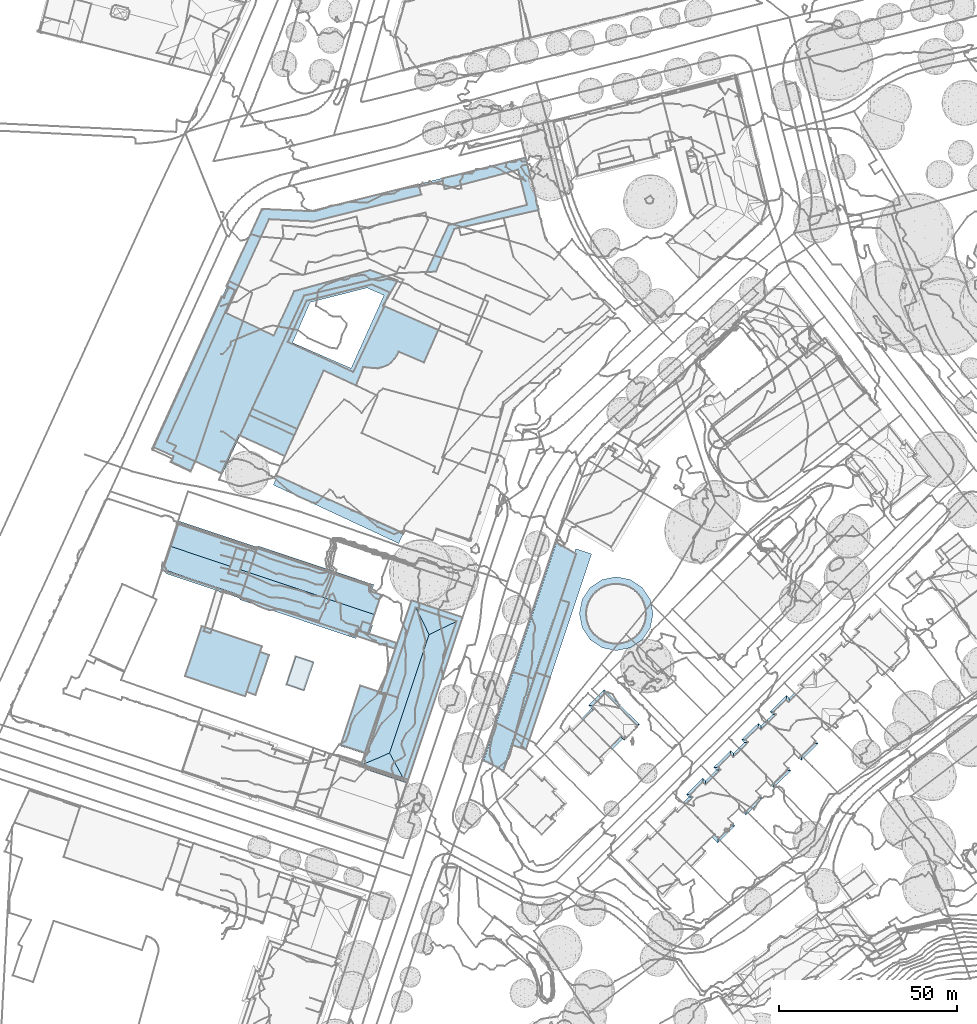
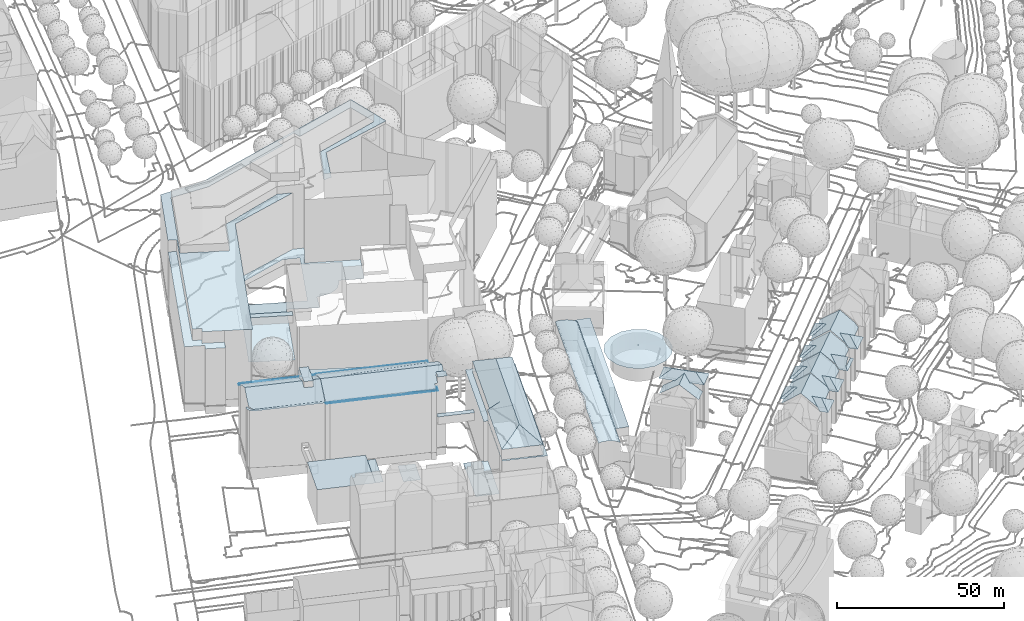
# Not in any storey, part 61 of 494: 27 roofs.
"""IFC2X3 model written with IfcOpenShell, lengths in metres."""

from ifc_helpers import new_model, si_unit, frame, origin_with_axes, place, context, subcontext, project, faceted_brep, element, save


model = new_model("IFC2X3")

# Units and contexts
model_context = context("Model", 3, precision=1e-05, world=origin_with_axes())
body_context = subcontext(model_context, "Body", "Model", "MODEL_VIEW")
ifc_project = project(units=[si_unit("AREAUNIT", "SQUARE_METRE"), si_unit("LENGTHUNIT", "METRE")], contexts=[model_context])

# Roofs
roof_1_placement = place(None, frame((152.792732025, 144.4969160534, 530.4589), z_axis=(0.0, 0.0, 1.0), x_axis=(1.0, 0.0, 0.0)))
element("IfcRoof", 1, at=roof_1_placement, Name="Roof 0", ShapeType="NOTDEFINED", context=body_context, shape_type="Brep", body=[
    faceted_brep([(11.4990000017, 3.9199000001, 16.6064), (3.7160000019, -3.7655999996, 16.6064), (7.0240000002, -3.9297000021, 14.4656), (14.8100000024, 0.5673999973, 12.7558), (15.0250000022, -1.134800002, 11.9018), (11.9930000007, -4.1270000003, 11.9018), (13.8900000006, -6.0479000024, 11.9018), (13.2320000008, -5.3819000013, 11.9018), (12.7750000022, -6.0459000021, 12.4998), (9.1090000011, -6.0410000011, 14.4656), (9.1130000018, -10.7666000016, 11.9018), (7.2149999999, -8.8447999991, 11.9018), (7.0860000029, -8.1914000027, 12.2278), (8.4680000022, -10.1132999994, 11.9018), (7.0250000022, -7.1172000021, 12.7557), (0.0, 0.0, 12.4958), (5.7910000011, 2.1543000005, 14.4656), (-0.5369999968, 0.5438999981, 11.9018), (1.0560000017, 2.115199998, 11.9018), (1.9360000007, 2.1219999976, 12.3788), (0.3060000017, 2.875, 11.9018), (1.4580000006, 2.8759999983, 12.5208), (5.0760000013, 2.878899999, 14.4656), (5.7410000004, 5.7020999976, 12.4768), (6.9220000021, 6.8759999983, 12.5478), (7.2460000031, 8.2284999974, 11.9978), (5.7259999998, 6.7265000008, 11.9018), (9.4890000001, 5.9560000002, 14.4286), (7.7600000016, 7.7080000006, 12.5548), (5.006000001, 6.1171999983, 12.6628), (4.9759999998, 7.4844000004, 11.9019)], [[[0, 1, 2]], [[0, 2, 3]], [[4, 2, 5]], [[3, 2, 4]], [[6, 7, 8]], [[8, 7, 5]], [[5, 2, 9]], [[5, 9, 8]], [[10, 8, 9]], [[8, 10, 6]], [[11, 2, 12]], [[9, 2, 13]], [[13, 2, 11]], [[13, 10, 9]], [[12, 2, 14]], [[1, 14, 2]], [[15, 1, 16]], [[17, 15, 18]], [[0, 16, 1]], [[19, 18, 15]], [[16, 19, 15]], [[20, 18, 21]], [[21, 18, 19]], [[19, 16, 22]], [[19, 22, 21]], [[23, 16, 24]], [[23, 25, 26]], [[25, 23, 24]], [[0, 27, 16]], [[16, 27, 24]], [[28, 25, 24]], [[28, 24, 27]], [[26, 29, 23]], [[16, 23, 22]], [[29, 22, 23]], [[30, 29, 26]], [[29, 30, 21]], [[21, 22, 29]], [[20, 21, 30]]]),
])
roof_2_placement = place(None, frame((-19.7342679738, 221.4617160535, 529.9572), z_axis=(0.0, 0.0, 1.0), x_axis=(1.0, 0.0, 0.0)))
element("IfcRoof", 2, at=roof_2_placement, Name="Roof 0", ShapeType="NOTDEFINED", context=body_context, shape_type="Brep", body=[
    faceted_brep([(4.993999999, -4.1132999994, 23.7467), (10.4820000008, -6.5976000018, 23.7467), (5.6550000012, -2.4844000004, 23.7467), (3.7309999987, 1.5986000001, 23.7467), (5.5020000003, -1.072300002, 23.7467), (11.6130000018, -3.942400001, 23.7467), (6.3049999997, 0.4395000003, 23.7467), (22.8310000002, 44.0722999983, 23.7468), (20.5639999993, 45.2509999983, 23.7468), (0.0, 0.0, 23.7467)], [[[0, 1, 2]], [[3, 2, 4]], [[1, 5, 2]], [[3, 4, 6]], [[4, 2, 5]], [[3, 7, 8]], [[3, 8, 9]], [[9, 2, 3]]]),
])
roof_3_placement = place(None, frame((-19.7342679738, 221.4617160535, 529.9572), z_axis=(0.0, 0.0, 1.0), x_axis=(1.0, 0.0, 0.0)))
element("IfcRoof", 3, at=roof_3_placement, Name="Roof 1", ShapeType="NOTDEFINED", context=body_context, shape_type="Brep", body=[
    faceted_brep([(34.6500000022, -8.0312000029, 7.8582), (33.5130000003, -10.4668000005, 7.8582), (34.9979999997, -8.1894000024, 7.8582), (35.0250000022, -8.1308000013, 7.8582), (42.1409999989, -11.4081999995, 7.8582), (49.1140000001, -14.5849000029, 7.8582), (68.7219999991, -26.8905999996, 7.8581), (70.0470000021, -24.0507999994, 7.8581)], [[[0, 1, 2]], [[3, 2, 4]], [[1, 4, 2]], [[1, 5, 4]], [[5, 1, 6]], [[7, 5, 6]]]),
])
roof_4_placement = place(None, frame((-19.7342679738, 221.4617160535, 529.9572), z_axis=(0.0, 0.0, 1.0), x_axis=(1.0, 0.0, 0.0)))
element("IfcRoof", 4, at=roof_4_placement, Name="Roof 2", ShapeType="NOTDEFINED", context=body_context, shape_type="Brep", body=[
    faceted_brep([(104.7769999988, 68.0557000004, 27.9653), (104.5659999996, 81.4775999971, 27.9653), (102.2939999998, 77.878899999, 27.9653), (108.068, 66.5859999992, 27.9653), (74.5170000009, 73.1171999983, 27.9653), (81.0370000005, 74.7460999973, 27.9653), (81.6960000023, 72.4179999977, 27.9653), (84.3440000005, 61.2782999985, 27.9653), (82.7039999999, 62.3525999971, 27.9653), (79.2180000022, 49.3017999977, 27.9653), (76.5700000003, 49.1963, 27.9653), (75.1140000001, 70.9530999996, 27.9653), (44.932, 66.5966999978, 27.9654), (60.7349999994, 49.7353999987, 27.9653), (39.4550000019, 43.8388999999, 27.9653), (42.2120000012, 42.5849999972, 27.9653), (44.868999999, 63.3554999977, 27.9654), (32.3900000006, 64.0020000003, 27.9654), (20.4820000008, 45.2929999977, 27.9654), (22.8310000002, 44.0722999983, 27.9653), (30.4869999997, 66.9687999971, 27.9654), (20.3310000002, 37.6767999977, 27.9653), (33.7100000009, 31.3662, 27.9653), (24.1750000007, 3.3046999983, 27.9653), (6.3049999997, 0.4395000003, 27.9653), (3.7309999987, 1.5986999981, 27.9653), (19.2100000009, -7.5088, 27.9653), (5.5020000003, -1.0722000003, 27.9653), (65.2490000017, 48.0497999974, 27.9653)], [[[0, 1, 2]], [[1, 0, 3]], [[4, 5, 1]], [[5, 6, 2]], [[5, 2, 1]], [[7, 8, 9]], [[3, 0, 7]], [[10, 9, 8]], [[8, 7, 0]], [[11, 4, 12]], [[13, 14, 15]], [[16, 12, 17]], [[16, 11, 12]], [[17, 18, 19]], [[18, 17, 20]], [[19, 21, 17]], [[20, 17, 12]], [[4, 1, 12]], [[14, 22, 15]], [[23, 22, 21]], [[21, 24, 23]], [[25, 24, 21]], [[26, 23, 27]], [[27, 23, 24]], [[19, 25, 21]], [[22, 23, 15]], [[13, 15, 28]]]),
])
roof_5_placement = place(None, frame((-19.7342679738, 221.4617160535, 529.9572), z_axis=(0.0, 0.0, 1.0), x_axis=(1.0, 0.0, 0.0)))
element("IfcRoof", 5, at=roof_5_placement, Name="Roof 4", ShapeType="NOTDEFINED", context=body_context, shape_type="Brep", body=[
    faceted_brep([(27.637000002, 10.8427999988, 19.3541), (26.8220000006, 9.0702999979, 19.3541), (39.4600000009, 3.4032999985, 19.3541), (40.2659999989, 5.1796999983, 19.3541)], [[[0, 1, 2]], [[2, 3, 0]]]),
])
roof_6_placement = place(None, frame((-19.7342679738, 221.4617160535, 529.9572), z_axis=(0.0, 0.0, 1.0), x_axis=(1.0, 0.0, 0.0)))
element("IfcRoof", 6, at=roof_6_placement, Name="Roof 12", ShapeType="NOTDEFINED", context=body_context, shape_type="Brep", body=[
    faceted_brep([(43.8669999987, 40.7558999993, 7.3943), (42.1099999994, 42.3622999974, 7.3943), (41.254999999, 37.4902999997, 7.4703), (38.0089999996, 33.4316999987, 7.5643), (37.7980000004, 29.9237999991, 7.6263), (36.6319999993, 30.432599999, 7.6263), (38.944000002, 29.4237999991, 7.6263), (68.4460000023, 46.8564999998, 7.3943), (65.2490000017, 48.0497999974, 7.3943), (59.8060000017, 44.8017999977, 7.3943), (68.324000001, 46.6415999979, 7.3943), (42.2120000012, 42.5849999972, 7.3943), (67.311999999, 44.8682000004, 7.5103), (65.7789999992, 43.6728999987, 7.5753), (64.5810000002, 42.7392999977, 7.6263), (65.7840000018, 42.1895000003, 7.6263), (65.0529999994, 40.9071999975, 7.6263), (64.7019999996, 40.2919999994, 7.6263), (64.7589999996, 40.2655999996, 7.6263), (64.4039999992, 39.7724999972, 7.6262), (79.8440000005, 32.9159999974, 7.6262), (68.7309999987, 26.8300999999, 7.6262), (75.8379999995, 23.7997999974, 7.6262), (64.0949999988, 22.4912, 7.6262), (65.6350000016, 23.0956999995, 7.6262), (66.6460000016, 23.8222999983, 7.6262), (67.5040000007, 24.8407999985, 7.6262), (68.2120000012, 25.7734999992, 7.6262), (58.8210000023, 22.557599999, 7.6262), (60.2910000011, 22.3642999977, 7.6262), (55.3520000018, 22.2597999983, 7.6262), (47.6970000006, 21.5683999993, 7.6262), (24.1920000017, 3.3427999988, 7.6262), (26.2149999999, 2.3779999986, 7.6262), (36.8099999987, -2.4404000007, 7.6262), (36.7180000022, -2.6328000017, 7.6262), (62.8170000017, 22.1816999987, 7.6262), (56.7750000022, 17.3319999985, 7.6262)], [[[0, 1, 2]], [[2, 1, 3]], [[4, 3, 5]], [[2, 4, 6]], [[2, 3, 4]], [[0, 2, 6]], [[7, 8, 9]], [[9, 10, 7]], [[1, 9, 8]], [[0, 9, 1]], [[1, 8, 11]], [[12, 9, 13]], [[9, 12, 10]], [[13, 9, 14]], [[15, 12, 13]], [[15, 13, 14]], [[16, 15, 14]], [[17, 16, 14]], [[18, 16, 17]], [[17, 14, 19]], [[20, 21, 22]], [[21, 20, 19]], [[23, 24, 25]], [[26, 27, 28]], [[28, 27, 21]], [[25, 26, 29]], [[28, 21, 19]], [[19, 14, 30]], [[4, 5, 31]], [[6, 4, 31]], [[32, 33, 31]], [[34, 31, 33]], [[33, 35, 34]], [[32, 31, 5]], [[6, 31, 30]], [[23, 29, 36]], [[23, 25, 29]], [[31, 37, 30]], [[37, 28, 30]], [[28, 19, 30]], [[28, 29, 26]]]),
])
roof_7_placement = place(None, frame((101.6207320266, 174.7557160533, 529.8231), z_axis=(0.0, 0.0, 1.0), x_axis=(1.0, 0.0, 0.0)))
element("IfcRoof", 7, at=roof_7_placement, Name="Roof 0", ShapeType="NOTDEFINED", context=body_context, shape_type="Brep", body=[
    faceted_brep([(5.2039999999, 7.7802000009, 6.2133), (8.375, 0.125, 7.3372), (8.375, 8.4120999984, 6.2123), (8.375, 10.4706999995, 5.9334), (4.4149999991, 9.682599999, 5.9334), (11.5469999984, 7.7821999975, 6.2123), (12.3350000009, 9.682599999, 5.9334), (14.2540000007, 6.003899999, 6.2093), (15.6900000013, 7.4404000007, 5.9334), (16.0749999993, 3.3143999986, 6.2063), (17.9329999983, 4.0839999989, 5.9334), (16.7479999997, 0.125, 6.2013), (18.7199999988, 0.125, 5.9333), (17.9329999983, -3.8340000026, 5.9333), (14.3410000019, -5.8418000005, 6.1923), (15.6900000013, -7.1914000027, 5.9333), (11.6079999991, -7.6817000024, 6.1903), (12.3330000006, -9.433600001, 5.9333), (8.375, -8.3379000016, 6.1883), (8.375, -10.2206999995, 5.9333), (4.4149999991, -9.433600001, 5.9334), (5.1400000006, -7.6827000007, 6.1903), (1.0579999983, -7.1914000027, 5.9334), (2.4100000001, -5.8399000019, 6.1923), (-1.1840000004, -3.8340000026, 5.9334), (0.6119999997, -3.0899000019, 6.1973), (-1.9699999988, 0.125, 5.9334), (0.004999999, 0.125, 6.2013), (-1.1840000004, 4.0839999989, 5.9334), (0.675999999, 3.3143999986, 6.2063), (1.0599999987, 7.4404000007, 5.9334), (2.5, 6.0, 6.2093)], [[[0, 1, 2]], [[3, 4, 0]], [[3, 0, 2]], [[2, 1, 5]], [[6, 3, 2]], [[6, 2, 5]], [[5, 1, 7]], [[8, 6, 5]], [[8, 5, 7]], [[7, 1, 9]], [[10, 8, 7]], [[10, 7, 9]], [[9, 1, 11]], [[12, 10, 9]], [[12, 9, 11]], [[11, 1, 13]], [[13, 12, 11]], [[13, 1, 14]], [[15, 13, 14]], [[14, 1, 16]], [[17, 15, 14]], [[17, 14, 16]], [[16, 1, 18]], [[19, 17, 16]], [[19, 16, 18]], [[20, 19, 21]], [[18, 1, 21]], [[18, 21, 19]], [[22, 20, 23]], [[21, 1, 23]], [[21, 23, 20]], [[24, 22, 25]], [[23, 1, 25]], [[23, 25, 22]], [[26, 24, 27]], [[25, 1, 27]], [[25, 27, 24]], [[28, 26, 29]], [[27, 1, 29]], [[27, 29, 26]], [[4, 30, 0]], [[31, 1, 0]], [[31, 0, 30]], [[30, 28, 31]], [[29, 1, 31]], [[29, 31, 28]]]),
])
roof_8_placement = place(None, frame((100.8207320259, 145.1316160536, 530.024), z_axis=(0.0, 0.0, 1.0), x_axis=(1.0, 0.0, 0.0)))
element("IfcRoof", 8, at=roof_8_placement, Name="Roof 0", ShapeType="NOTDEFINED", context=body_context, shape_type="Brep", body=[
    faceted_brep([(8.4510000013, -2.8877000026, 13.1377), (11.2789999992, -5.1103000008, 10.5939), (11.300999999, -5.0879000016, 10.5939), (8.4519999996, -2.4951000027, 13.3337), (8.4510000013, -2.2070000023, 13.4777), (7.5650000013, -7.701100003, 11.1839), (8.1460000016, -8.2928999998, 10.5939), (3.8530000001, -3.9218000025, 14.9535), (8.2520000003, -2.2802000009, 13.5417), (8.2400000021, -0.0400000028, 14.6666), (8.2369999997, 0.5322999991, 14.9535), (8.251000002, -2.6894000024, 13.3377), (5.8210000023, 7.0322999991, 13.9946), (5.7910000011, 8.4638999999, 13.3377), (1.4250000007, 4.0284000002, 13.3377), (2.7329999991, 3.9736999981, 13.9586), (5.887000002, 3.8427999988, 15.4575), (14.7740000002, -1.3427000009, 13.7906), (15.7609999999, -1.3476000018, 13.3377), (11.1380000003, -1.326100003, 15.4575), (7.8960000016, 0.5284000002, 14.7826), (5.9959999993, 0.5068999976, 13.8287), (5.2280000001, 0.4980999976, 13.4437), (5.0150000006, 0.4941999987, 13.3377), (4.8150000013, 0.6923999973, 13.1377), (5.0160000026, 0.6953999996, 13.2377), (2.686999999, 3.625, 10.594), (5.5710000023, 0.7021999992, 13.5167), (-0.4399999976, 0.4483000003, 10.594), (11.3680000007, -5.201100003, 13.6147), (11.9090000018, -5.2627000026, 13.3377), (11.3949999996, -5.7851000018, 13.3377), (11.3920000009, -5.1796000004, 13.4127), (11.3680000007, -5.201100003, 13.4147), (11.2789999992, -5.1103000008, 10.394), (10.512000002, -5.888600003, 10.444), (10.512000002, -5.888600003, 10.544), (11.300999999, -5.0879000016, 10.394)], [[[0, 1, 2]], [[3, 2, 4]], [[0, 2, 3]], [[1, 5, 6]], [[5, 1, 0]], [[7, 5, 0]], [[7, 8, 9]], [[7, 9, 10]], [[8, 7, 11]], [[11, 7, 0]], [[12, 13, 14]], [[15, 16, 12]], [[14, 15, 12]], [[17, 18, 13]], [[19, 17, 12]], [[12, 16, 19]], [[13, 12, 17]], [[7, 10, 20]], [[7, 20, 21]], [[21, 22, 7]], [[7, 22, 23]], [[24, 25, 26]], [[26, 25, 27]], [[24, 28, 7]], [[28, 24, 26]], [[24, 7, 23]], [[29, 18, 17]], [[29, 17, 19]], [[30, 29, 31]], [[29, 30, 18]], [[14, 23, 22]], [[14, 22, 15]], [[16, 15, 20]], [[21, 20, 15]], [[15, 22, 21]], [[16, 20, 10]], [[8, 11, 29]], [[31, 29, 11]], [[10, 9, 19]], [[29, 9, 8]], [[9, 29, 19]], [[10, 19, 16]], [[32, 4, 33]], [[34, 35, 6]], [[2, 1, 36]], [[34, 37, 35]]]),
])
roof_9_placement = place(None, frame((72.548732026, 133.6649160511, 527.8002), z_axis=(0.0, 0.0, 1.0), x_axis=(1.0, 0.0, 0.0)))
element("IfcRoof", 9, at=roof_9_placement, Name="Roof 1", ShapeType="NOTDEFINED", context=body_context, shape_type="Brep", body=[
    faceted_brep([(24.1070000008, 59.2275000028, 12.3299), (3.7039999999, -1.9111999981, 12.3298), (24.8249999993, 58.8203000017, 12.2289), (4.4330000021, -2.2881999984, 12.2288), (23.3350000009, 59.6660000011, 12.3639), (2.9210000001, -1.5068999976, 12.3638), (22.563000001, 60.1015000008, 12.3299), (2.1380000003, -1.1044999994, 12.3298), (9.7919999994, 24.3935000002, 12.2289), (21.8449999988, 60.5107000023, 12.2289), (1.4090000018, -0.7275999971, 12.2288), (14.1490000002, 22.937400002, 11.8599), (25.9169999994, 58.2021000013, 11.8599), (13.6420000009, 23.1064000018, 12.0689), (25.443, 58.4697000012, 12.0689), (5.5401000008, -2.8594999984, 11.86), (5.4290999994, -2.807699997, 11.907), (5.0600000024, -2.611399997, 12.0688), (15.0529999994, 24.5868999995, 11.6169), (26.2138999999, 58.0322000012, 11.6169), (5.8420000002, -3.0156999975, 11.6169), (21.2269000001, 60.8613000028, 12.0689), (9.1319999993, 24.6152000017, 12.0689), (0.7829999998, -0.4043000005, 12.0689), (20.7481000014, 61.1210000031, 11.86), (8.625, 24.7840999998, 11.8599), (0.3020000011, -0.1562999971, 11.8599), (0.0, -9.9998e-05, 11.6169), (8.3060000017, 24.8905999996, 11.6169), (20.4539999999, 61.2919000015, 11.6169)], [[[0, 1, 2]], [[3, 2, 1]], [[4, 5, 0]], [[5, 1, 0]], [[4, 6, 5]], [[7, 5, 6]], [[8, 6, 9]], [[7, 6, 10]], [[10, 6, 8]], [[11, 12, 13]], [[12, 14, 13]], [[15, 11, 16]], [[16, 13, 17]], [[16, 11, 13]], [[2, 13, 14]], [[17, 13, 3]], [[3, 13, 2]], [[12, 18, 19]], [[11, 15, 20]], [[20, 18, 11]], [[11, 18, 12]], [[21, 8, 9]], [[22, 8, 21]], [[10, 8, 23]], [[23, 8, 22]], [[24, 22, 21]], [[22, 24, 25]], [[26, 23, 25]], [[25, 23, 22]], [[27, 26, 25]], [[25, 24, 28]], [[29, 28, 24]], [[25, 28, 27]]]),
])
roof_10_placement = place(None, frame((72.548732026, 133.6649160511, 527.8002), z_axis=(0.0, 0.0, 1.0), x_axis=(1.0, 0.0, 0.0)))
element("IfcRoof", 10, at=roof_10_placement, Name="Roof 2", ShapeType="NOTDEFINED", context=body_context, shape_type="Brep", body=[
    faceted_brep([(12.1779999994, 2.9873000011, 11.5899), (18.9510000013, 23.2840999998, 11.5899), (12.1469999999, 2.9970000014, 11.5889), (15.0529999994, 24.5868999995, 11.4139), (8.2789999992, 4.2890000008, 11.4169), (26.175999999, 57.9189000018, 11.41), (30.5240000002, 57.9618999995, 11.5899), (26.1110000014, 59.4335000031, 11.386), (25.699000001, 58.2001000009, 11.386)], [[[0, 1, 2]], [[3, 4, 2]], [[2, 1, 3]], [[1, 5, 3]], [[5, 1, 6]], [[5, 7, 8]], [[7, 5, 6]]]),
])
roof_11_placement = place(None, frame((-17.4142679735, 188.431416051, 525.0686), z_axis=(0.0, 0.0, 1.0), x_axis=(1.0, 0.0, 0.0)))
element("IfcRoof", 11, at=roof_11_placement, Name="Roof 0", ShapeType="NOTDEFINED", context=body_context, shape_type="Brep", body=[
    faceted_brep([(2.3909999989, -1.7909999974, 25.3756), (2.512000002, 5.3057000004, 28.9223), (1.5100000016, -1.4959999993, 25.3766), (22.2760000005, -8.4432999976, 25.3766), (20.8229999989, 4.4698000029, 26.3665), (19.2309999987, -0.2889999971, 28.9102), (18.561999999, -2.2899999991, 27.8093), (21.311999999, -3.2098999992, 27.8073), (24.4219999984, -2.0252999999, 28.9062), (21.9809999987, -1.2088999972, 28.9082), (4.5980000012, 11.5391000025, 25.5766), (20.9279999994, 4.7832000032, 26.1975), (22.0329999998, 4.4131000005, 26.1975), (26.5080000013, 4.2090000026, 25.5726), (0.0, 0.0, 25.3406), (0.0370000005, -0.7274999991, 25.3406), (0.7120000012, -0.0760999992, 25.3406), (0.3359999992, -1.4696999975, 25.3406), (0.2430000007, 0.6953999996, 25.3406), (0.8969999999, 0.4776000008, 25.3406), (1.2349999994, -1.1053999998, 25.3406), (1.0260000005, -0.8104999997, 25.3406), (1.2069999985, -2.3192999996, 25.3406), (1.2600000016, -1.1405999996, 25.3436), (1.2349999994, -1.1053999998, 25.5606), (0.8969999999, 0.4776000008, 26.2815), (1.0260000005, -0.8104999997, 25.6706), (0.7120000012, -0.0760999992, 25.9805), (22.0929999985, -8.9891999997, 25.2986), (12.7789999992, -5.5868999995, 25.3346), (22.0100000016, -9.2381999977, 25.2986), (22.001000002, -9.2801999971, 25.2986), (23.6779999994, 3.8633000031, 26.1965)], [[[0, 1, 2]], [[3, 1, 0]], [[4, 1, 5]], [[1, 6, 5]], [[6, 1, 3]], [[7, 3, 8]], [[3, 7, 6]], [[8, 9, 7]], [[10, 1, 11]], [[11, 1, 4]], [[11, 12, 13]], [[11, 13, 10]], [[14, 15, 16]], [[16, 15, 17]], [[14, 16, 18]], [[19, 18, 16]], [[17, 20, 21]], [[20, 17, 22]], [[17, 21, 16]], [[22, 23, 20]], [[22, 2, 23]], [[2, 1, 24]], [[24, 1, 25]], [[26, 24, 25]], [[25, 27, 26]], [[22, 28, 29]], [[28, 3, 29]], [[0, 29, 3]], [[28, 22, 30]], [[31, 30, 22]], [[22, 29, 0]], [[22, 0, 2]], [[8, 13, 32]], [[12, 32, 13]], [[32, 9, 8]]]),
])
roof_12_placement = place(None, frame((-17.4142679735, 188.431416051, 525.0686), z_axis=(0.0, 0.0, 1.0), x_axis=(1.0, 0.0, 0.0)))
element("IfcRoof", 12, at=roof_12_placement, Name="Roof 1", ShapeType="NOTDEFINED", context=body_context, shape_type="Brep", body=[
    faceted_brep([(21.7230000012, 6.2393000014, 25.3076), (4.1920000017, 11.6749000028, 25.3406), (26.5080000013, 4.2090000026, 25.3406), (26.6739999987, 4.7032000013, 25.2986), (26.7699999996, 4.9922000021, 25.2986), (26.8020000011, 5.067400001, 25.2986), (4.4600000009, 12.5430000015, 25.3406), (4.3370000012, 12.1456000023, 25.3406)], [[[0, 1, 2]], [[2, 3, 0]], [[3, 4, 0]], [[4, 5, 0]], [[6, 7, 0]], [[1, 0, 7]], [[6, 0, 5]]]),
])
roof_13_placement = place(None, frame((-17.4142679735, 188.431416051, 525.0686), z_axis=(0.0, 0.0, 1.0), x_axis=(1.0, 0.0, 0.0)))
element("IfcRoof", 13, at=roof_13_placement, Name="Roof 2", ShapeType="NOTDEFINED", context=body_context, shape_type="Brep", body=[
    faceted_brep([(18.561999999, -2.2899999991, 29.9971), (21.311999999, -3.2098999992, 29.9971), (23.6779999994, 3.8633000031, 29.9971), (20.9279999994, 4.7832000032, 29.9971)], [[[0, 1, 2]], [[2, 3, 0]]]),
])
roof_14_placement = place(None, frame((-10.9342679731, 157.2918160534, 524.6136), z_axis=(0.0, 0.0, 1.0), x_axis=(1.0, 0.0, 0.0)))
element("IfcRoof", 14, at=roof_14_placement, Name="Roof 0", ShapeType="NOTDEFINED", context=body_context, shape_type="Brep", body=[
    faceted_brep([(17.2980000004, -4.4092000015, 12.7548), (21.5859999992, 8.3838, 12.7548), (4.6970000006, 14.0351999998, 12.7548), (0.0, 0.0, 12.7548), (16.8900000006, -5.6513999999, 12.7548)], [[[0, 1, 2]], [[0, 3, 4]], [[3, 0, 2]]]),
])
roof_15_placement = place(None, frame((-10.9342679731, 157.2918160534, 524.6136), z_axis=(0.0, 0.0, 1.0), x_axis=(1.0, 0.0, 0.0)))
element("IfcRoof", 15, at=roof_15_placement, Name="Roof 1", ShapeType="NOTDEFINED", context=body_context, shape_type="Brep", body=[
    faceted_brep([(23.5749999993, 6.0224999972, 12.0449), (21.0749999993, 6.8594000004, 12.0449), (19.737999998, -5.4414000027, 12.0448), (17.2980000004, -4.4092000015, 12.0448), (17.2280000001, -4.6016000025, 12.0448)], [[[0, 1, 2]], [[3, 4, 2]], [[3, 2, 1]]]),
])
roof_16_placement = place(None, frame((4.678732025, 179.4422160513, 524.9256), z_axis=(0.0, 0.0, 1.0), x_axis=(1.0, 0.0, 0.0)))
element("IfcRoof", 16, at=roof_16_placement, Name="Roof 0", ShapeType="NOTDEFINED", context=body_context, shape_type="Brep", body=[
    faceted_brep([(36.6700000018, 1.5391000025, 25.3995), (37.3530000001, 3.5791000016, 25.3995), (36.5380000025, 3.0, 25.3995), (4.8440000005, 14.4600000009, 25.3996), (23.1359999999, 7.8456999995, 25.3996), (36.1120000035, 1.7266000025, 25.3995), (4.6790000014, 13.9805000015, 25.4256), (4.5810000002, 13.6933000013, 25.4416)], [[[0, 1, 2]], [[3, 4, 1]], [[2, 5, 0]], [[4, 2, 1]], [[6, 7, 4]], [[6, 4, 3]], [[4, 7, 2]]]),
])
roof_17_placement = place(None, frame((4.678732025, 179.4422160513, 524.9256), z_axis=(0.0, 0.0, 1.0), x_axis=(1.0, 0.0, 0.0)))
element("IfcRoof", 17, at=roof_17_placement, Name="Roof 1", ShapeType="NOTDEFINED", context=body_context, shape_type="Brep", body=[
    faceted_brep([(32.2970000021, -11.5302999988, 25.3995), (-0.0919999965, -0.2909999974, 25.4416), (-0.2129999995, -0.6523999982, 25.3996), (22.4830000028, -7.3983999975, 25.4125), (0.0040000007, -0.0029000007, 25.4416), (32.0090000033, -10.5331999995, 25.3995), (33.0109999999, -9.3974999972, 25.3995), (32.4850000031, -9.1112999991, 25.3995), (33.0440000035, -9.2987999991, 25.3995)], [[[0, 1, 2]], [[3, 4, 1]], [[1, 0, 3]], [[5, 0, 6]], [[0, 5, 3]], [[7, 6, 8]], [[7, 5, 6]]]),
])
roof_18_placement = place(None, frame((4.678732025, 179.4422160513, 524.9256), z_axis=(0.0, 0.0, 1.0), x_axis=(1.0, 0.0, 0.0)))
element("IfcRoof", 18, at=roof_18_placement, Name="Roof 2", ShapeType="NOTDEFINED", context=body_context, shape_type="Brep", body=[
    faceted_brep([(33.3580000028, -9.4032999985, 28.7292), (36.1590000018, -10.3407999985, 28.7292), (37.0270000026, -7.7480999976, 28.7292), (34.2250000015, -6.811499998, 28.7292)], [[[0, 1, 2]], [[3, 0, 2]]]),
])
roof_19_placement = place(None, frame((4.678732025, 179.4422160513, 524.9256), z_axis=(0.0, 0.0, 1.0), x_axis=(1.0, 0.0, 0.0)))
element("IfcRoof", 19, at=roof_19_placement, Name="Roof 3", ShapeType="NOTDEFINED", context=body_context, shape_type="Brep", body=[
    faceted_brep([(33.0440000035, -9.2987999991, 15.3225), (32.5140000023, -10.8808999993, 15.3225), (43.6950000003, -12.8622999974, 15.3225), (43.1650000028, -14.4452999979, 15.3225)], [[[0, 1, 2]], [[3, 2, 1]]]),
])
roof_20_placement = place(None, frame((4.678732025, 179.4422160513, 524.9256), z_axis=(0.0, 0.0, 1.0), x_axis=(1.0, 0.0, 0.0)))
element("IfcRoof", 20, at=roof_20_placement, Name="Roof 4", ShapeType="NOTDEFINED", context=body_context, shape_type="Brep", body=[
    faceted_brep([(32.4850000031, -9.1112999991, 26.4644), (22.4830000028, -7.3983999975, 25.7095), (32.0090000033, -10.5331999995, 25.7095), (1.9240000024, -0.5399999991, 25.7535), (1.325000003, -0.4375, 25.7095), (0.0, 0.0, 25.7095), (36.5380000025, 3.0, 25.7095), (2.3289999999, 6.9638999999, 29.0492), (36.1120000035, 1.7266000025, 26.2385), (4.5810000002, 13.6933000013, 25.9055), (33.3580000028, -9.4032999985, 26.4644), (0.1830000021, 0.5459000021, 25.9695), (34.2250000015, -6.811499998, 27.7033), (37.512000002, -4.8085999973, 29.0332), (36.5780000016, -7.5986000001, 27.7033), (39.3370000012, 0.6475000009, 26.2385), (8.0020000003, -2.6347999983, 25.6595), (1.325000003, -0.4375, 25.5097), (8.0020000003, -2.6347999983, 25.5595), (0.0, -9.9998e-05, 25.5096)], [[[0, 1, 2]], [[1, 0, 3]], [[4, 3, 5]], [[3, 4, 1]], [[6, 7, 8]], [[7, 6, 9]], [[0, 10, 7]], [[3, 0, 11]], [[5, 3, 11]], [[11, 0, 7]], [[7, 12, 13]], [[12, 7, 10]], [[14, 13, 12]], [[8, 7, 15]], [[13, 15, 7]], [[5, 16, 4]], [[17, 18, 19]]]),
])
roof_21_placement = place(None, frame((32.7697320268, 138.0096160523, 524.7246), z_axis=(0.0, 0.0, 1.0), x_axis=(1.0, 0.0, 0.0)))
element("IfcRoof", 21, at=roof_21_placement, Name="Roof 0", ShapeType="NOTDEFINED", context=body_context, shape_type="Brep", body=[
    faceted_brep([(17.6440000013, -9.5907999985, 25.1145), (17.7280000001, -9.3407999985, 25.1145), (13.6369999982, -2.183600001, 29.4691), (24.7459999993, 31.0166000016, 29.4691), (32.4679999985, 34.7118999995, 25.1146), (21.006000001, 38.5469000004, 25.2756), (12.8979999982, 14.317400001, 25.2755), (13.1889999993, 14.2197000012, 25.4925), (18.3990000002, 30.7558000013, 25.2755), (10.6539999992, -3.5430000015, 27.7763), (16.256000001, 13.1953000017, 27.7763), (5.6220000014, -5.5694000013, 25.1145), (5.8150000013, -4.9932000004, 25.1145), (12.3900000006, 14.4882999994, 25.1495), (12.3390000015, 14.504900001, 25.1145), (12.8979999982, 14.317400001, 25.4945)], [[[0, 1, 2]], [[1, 3, 2]], [[3, 1, 4]], [[4, 5, 3]], [[6, 7, 8]], [[9, 2, 10]], [[10, 3, 8]], [[3, 10, 2]], [[5, 8, 3]], [[10, 8, 7]], [[9, 11, 0]], [[0, 2, 9]], [[12, 13, 14]], [[12, 11, 9]], [[15, 9, 10]], [[9, 15, 12]], [[12, 15, 13]]]),
])
roof_22_placement = place(None, frame((32.7697320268, 138.0096160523, 524.7246), z_axis=(0.0, 0.0, 1.0), x_axis=(1.0, 0.0, 0.0)))
element("IfcRoof", 22, at=roof_22_placement, Name="Roof 1", ShapeType="NOTDEFINED", context=body_context, shape_type="Brep", body=[
    faceted_brep([(18.5909999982, -10.6504000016, 21.3649), (17.6440000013, -9.5907999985, 21.3649), (5.3990000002, -6.2373000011, 21.3649), (5.6229999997, -5.5694000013, 21.3649), (6.7419999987, -2.2226999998, 21.3649), (5.8159999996, -4.9932000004, 21.3649), (5.9189999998, -5.0273999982, 21.3649), (32.4679999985, 34.7118999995, 21.3649), (12.8979999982, 14.317400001, 21.3649), (21.006000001, 38.5467999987, 21.3649), (12.3900000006, 14.4882000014, 21.3649), (34.1330000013, 35.7822000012, 21.3649), (34.1409999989, 35.8242000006, 21.3649), (19.7190000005, 40.6493999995, 21.3649), (10.9439999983, 14.4228000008, 21.3649), (12.1739999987, 14.0106999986, 21.3649)], [[[0, 1, 2]], [[2, 1, 3]], [[4, 5, 6]], [[1, 0, 7]], [[8, 9, 10]], [[7, 11, 12]], [[7, 12, 9]], [[0, 11, 7]], [[9, 12, 13]], [[14, 10, 13]], [[10, 14, 15]], [[13, 10, 9]], [[10, 15, 4]], [[4, 6, 10]]]),
])
roof_23_placement = place(None, frame((32.7697320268, 138.0096160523, 524.7246), z_axis=(0.0, 0.0, 1.0), x_axis=(1.0, 0.0, 0.0)))
element("IfcRoof", 23, at=roof_23_placement, Name="Roof 2", ShapeType="NOTDEFINED", context=body_context, shape_type="Brep", body=[
    faceted_brep([(-0.245000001, -0.2118999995, 6.7613), (6.7589999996, -2.4785000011, 6.7613), (6.7419999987, -2.2226999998, 6.7613), (6.8339999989, -2.2529999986, 6.7613), (10.9439999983, 14.4228000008, 6.7613), (12.1739999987, 14.0106999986, 6.7613), (11.2149999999, 14.7138000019, 6.7613), (11.2410000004, 14.7910000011, 6.7613), (11.0590000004, 14.7666000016, 6.7613), (5.2399999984, 16.7333999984, 6.7613)], [[[0, 1, 2]], [[2, 1, 3]], [[4, 0, 2]], [[2, 5, 4]], [[6, 7, 8]], [[4, 8, 9]], [[9, 8, 7]], [[4, 9, 0]]]),
])
roof_24_placement = place(None, frame((17.559732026, 155.003716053, 524.8416), z_axis=(0.0, 0.0, 1.0), x_axis=(1.0, 0.0, 0.0)))
element("IfcRoof", 24, at=roof_24_placement, Name="Roof 0", ShapeType="NOTDEFINED", context=body_context, shape_type="Brep", body=[
    faceted_brep([(2.6380000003, 7.9873000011, 6.9053), (4.8289999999, -1.629900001, 6.9053), (7.6779999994, 6.2694999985, 6.9053), (0.0, 0.0, 6.9053), (4.9680000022, -1.6845999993, 6.9053), (-0.0720000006, 0.0322000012, 6.9053)], [[[0, 1, 2]], [[1, 0, 3]], [[2, 1, 4]], [[3, 0, 5]]]),
])
roof_25_placement = place(None, frame((145.0367320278, 136.7889160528, 530.3359), z_axis=(0.0, 0.0, 1.0), x_axis=(1.0, 0.0, 0.0)))
element("IfcRoof", 25, at=roof_25_placement, Name="Roof 0", ShapeType="NOTDEFINED", context=body_context, shape_type="Brep", body=[
    faceted_brep([(0.0, 0.0, 12.1508), (3.6909999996, -3.7382999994, 16.1654), (1.2390000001, 1.2303999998, 12.1458), (0.868999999, 1.9813999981, 11.5389), (-0.563000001, 0.5702999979, 11.5389), (11.4719999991, 3.942400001, 16.2304), (5.5989999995, 5.5634000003, 12.1398), (5.7069999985, 1.9765000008, 14.1766), (7.7559999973, 7.7080000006, 12.1308), (7.2190000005, 8.2518999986, 11.5389), (5.5669999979, 6.6220000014, 11.5389), (7.0009999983, -7.0918000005, 12.5908), (7.2099999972, -3.942400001, 14.2096), (10.9100000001, -7.6895000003, 14.2096), (9.2289999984, -9.3487000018, 12.1358), (7.1789999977, -8.8291000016, 11.5389), (9.3909999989, -9.188500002, 12.1358), (9.2019999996, -9.5918000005, 12.0318), (10.9100000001, -7.6895000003, 12.1358), (9.0759999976, -10.75, 11.5389), (13.9199999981, -5.9688000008, 11.5389), (12.5830000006, -6.0351999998, 12.1358), (12.7619999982, -5.8594000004, 12.1358), (8.4560000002, -10.1220999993, 11.5389), (14.7809999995, 0.5907999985, 12.5908), (12.0219999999, -4.0478999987, 11.5389), (14.8420000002, -0.4834000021, 11.9408), (14.9709999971, -1.1367000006, 11.5389), (1.993999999, 1.9803999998, 12.1518), (4.8189999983, 7.379900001, 11.5389), (4.8559999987, 6.2558000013, 12.1718), (4.998999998, 2.6952999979, 14.1766), (1.3139999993, 2.7236000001, 12.1848), (0.1199999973, 2.7412, 11.5389), (13.2839999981, -5.3251999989, 11.5389)], [[[0, 1, 2]], [[3, 4, 0]], [[3, 0, 2]], [[5, 6, 7]], [[6, 5, 8]], [[8, 9, 10]], [[8, 10, 6]], [[1, 11, 12]], [[13, 12, 11]], [[13, 11, 14]], [[14, 11, 15]], [[16, 17, 18]], [[16, 14, 17]], [[17, 19, 20]], [[17, 21, 18]], [[17, 20, 22]], [[21, 17, 22]], [[19, 17, 23]], [[14, 15, 23]], [[14, 23, 17]], [[24, 5, 25]], [[12, 25, 5]], [[5, 1, 12]], [[24, 25, 26]], [[26, 25, 27]], [[3, 2, 28]], [[28, 2, 1]], [[7, 1, 5]], [[1, 7, 28]], [[29, 30, 10]], [[10, 30, 6]], [[6, 31, 7]], [[31, 6, 30]], [[30, 29, 32]], [[30, 32, 31]], [[32, 29, 33]], [[20, 34, 22]], [[22, 34, 25]], [[25, 12, 13]], [[25, 13, 22]], [[7, 31, 28]], [[28, 31, 32]], [[32, 33, 3]], [[32, 3, 28]]]),
])
roof_26_placement = place(None, frame((129.3807320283, 121.2410160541, 529.389), z_axis=(0.0, 0.0, 1.0), x_axis=(1.0, 0.0, 0.0)))
element("IfcRoof", 26, at=roof_26_placement, Name="Roof 0", ShapeType="NOTDEFINED", context=body_context, shape_type="Brep", body=[
    faceted_brep([(0.9809999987, 2.1835999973, 12.1118), (1.1019999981, -1.1103000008, 14.0086), (2.0789999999, 2.1620999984, 12.7268), (0.0, 0.0, 12.7878), (-0.6050000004, 0.6191999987, 12.1118), (3.6479999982, -3.6904000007, 16.8384), (5.7629999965, 2.0859999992, 14.7906), (11.436999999, 4.0, 16.8384), (6.4289999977, 6.3818999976, 12.7678), (5.6549999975, 5.6562999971, 12.7468), (5.6219999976, 6.7646999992, 12.1118), (7.1829999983, 8.3085999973, 12.1058), (7.7709999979, 7.7148999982, 12.7588), (5.0279999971, 2.8339999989, 14.7906), (4.9139999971, 6.2929999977, 12.8148), (0.2329999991, 2.9423999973, 12.1118), (1.4979999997, 2.9140999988, 12.8188), (4.8729999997, 7.5234999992, 12.1118), (7.3149999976, -7.4043000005, 12.7767), (7.3229999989, -3.9414000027, 14.6886), (12.0719999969, -3.9072000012, 12.1118), (11.6619999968, -5.9326000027, 13.3777), (15.1030000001, 0.2861000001, 12.7887), (15.0709999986, -0.9463, 12.1058), (9.4109999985, -6.0566000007, 14.6356), (9.242999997, -8.3222000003, 13.3767), (9.186999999, -9.2129000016, 12.8897), (9.0969999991, -10.6396000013, 12.1118), (12.9469999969, -5.875, 12.6727), (13.9699999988, -5.8291000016, 12.1118), (13.3809999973, -5.2334000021, 12.1118), (8.4499999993, -8.4756000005, 12.8857), (7.2009999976, -8.7168000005, 12.1118), (7.4419999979, -7.4638999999, 12.8157), (0.4569999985, -0.4599000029, 13.2437), (-0.6050000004, 0.6191999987, 11.9118), (0.0, 0.0, 12.5878), (0.4569999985, -0.4599000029, 13.1437)], [[[0, 1, 2]], [[3, 0, 4]], [[0, 3, 1]], [[1, 5, 6]], [[6, 7, 8]], [[7, 6, 5]], [[6, 8, 9]], [[10, 9, 8]], [[6, 2, 1]], [[11, 10, 12]], [[12, 10, 8]], [[8, 7, 12]], [[6, 9, 13]], [[14, 13, 9]], [[9, 10, 14]], [[15, 0, 16]], [[16, 0, 2]], [[2, 6, 13]], [[2, 13, 16]], [[14, 17, 16]], [[14, 16, 13]], [[16, 17, 15]], [[17, 14, 10]], [[18, 19, 5]], [[19, 7, 5]], [[20, 7, 19]], [[20, 19, 21]], [[20, 22, 7]], [[22, 20, 23]], [[21, 19, 24]], [[25, 21, 24]], [[26, 27, 28]], [[25, 26, 21]], [[28, 21, 26]], [[29, 28, 27]], [[30, 20, 28]], [[30, 28, 29]], [[28, 20, 21]], [[31, 32, 26]], [[26, 25, 31]], [[27, 26, 32]], [[31, 25, 33]], [[32, 33, 18]], [[33, 32, 31]], [[25, 24, 33]], [[18, 33, 24]], [[24, 19, 18]], [[3, 4, 34]], [[35, 36, 37]]]),
])
roof_27_placement = place(None, frame((137.1517320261, 128.9559160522, 529.729), z_axis=(0.0, 0.0, 1.0), x_axis=(1.0, 0.0, 0.0)))
element("IfcRoof", 27, at=roof_27_placement, Name="Roof 0", ShapeType="NOTDEFINED", context=body_context, shape_type="Brep", body=[
    faceted_brep([(7.3000000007, -8.6611999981, 11.7658), (9.0969999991, -5.6865999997, 14.4656), (7.3320000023, -7.4287, 12.4487), (7.3650000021, -3.9316999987, 14.4656), (3.6660000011, -3.7148999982, 16.7083), (14.8859999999, 0.7412, 12.8677), (15.0639999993, -0.996100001, 11.7578), (12.1390000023, -3.8847999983, 11.7578), (14.0360000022, -5.8066999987, 11.7578), (13.4239999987, -5.1875, 11.7578), (12.9100000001, -5.7793000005, 12.3757), (9.1790000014, -9.6143000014, 12.2938), (9.1960000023, -10.5839999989, 11.7578), (8.5989999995, -9.9794999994, 11.7608), (5.7919999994, 1.933600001, 14.6425), (11.5760000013, 4.0947000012, 16.7723), (5.7239999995, 5.6865000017, 12.4198), (5.7039999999, 6.8037, 11.7578), (0.9149999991, 0.9101000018, 12.4438), (-0.5879999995, 0.5936999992, 11.7658), (0.0, 0.0, 12.4478), (0.8909999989, 2.0507000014, 11.7578), (2.0360000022, 2.0234000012, 12.4318), (0.1420000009, 2.8095000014, 11.7578), (1.4470000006, 2.8143999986, 12.5478), (4.9070000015, 2.8291000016, 14.6425), (4.943, 6.3407999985, 12.5028), (4.9550000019, 7.5625, 11.7578), (7.3220000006, 8.4032999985, 11.7578), (7.8850000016, 7.8330000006, 12.4218)], [[[0, 1, 2]], [[3, 2, 1]], [[4, 2, 3]], [[5, 4, 3]], [[6, 5, 3]], [[3, 7, 6]], [[8, 9, 10]], [[10, 9, 1]], [[3, 1, 9]], [[3, 9, 7]], [[11, 12, 8]], [[10, 1, 11]], [[8, 10, 11]], [[12, 11, 13]], [[11, 1, 0]], [[11, 0, 13]], [[14, 15, 16]], [[15, 17, 16]], [[4, 15, 14]], [[18, 19, 20]], [[4, 14, 18]], [[4, 18, 20]], [[5, 15, 4]], [[21, 19, 22]], [[18, 14, 22]], [[18, 22, 19]], [[23, 21, 24]], [[24, 21, 22]], [[22, 14, 25]], [[22, 25, 24]], [[14, 16, 25]], [[25, 16, 26]], [[26, 17, 27]], [[17, 26, 16]], [[26, 27, 23]], [[26, 24, 25]], [[24, 26, 23]], [[28, 17, 29]], [[29, 17, 15]]]),
])

save(model, "model.ifc")
